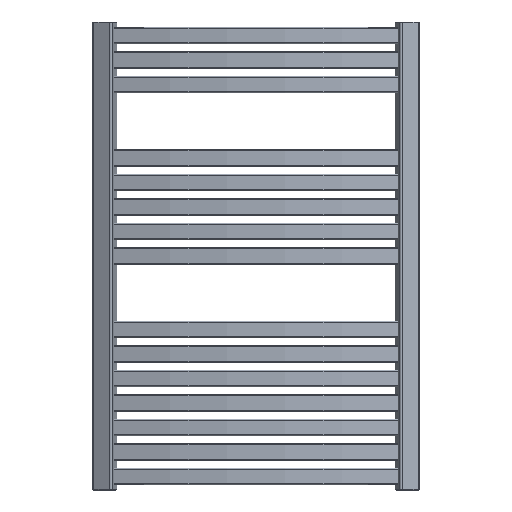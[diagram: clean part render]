
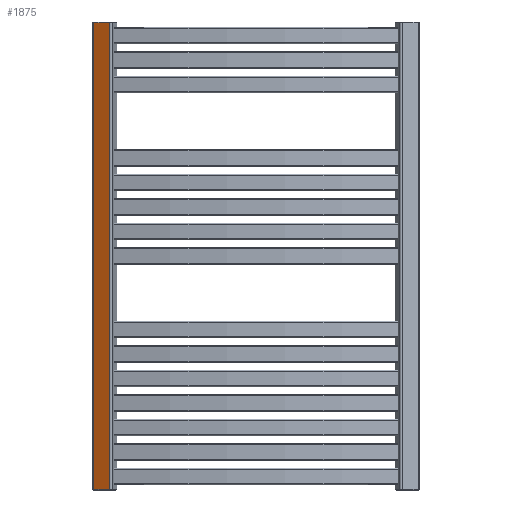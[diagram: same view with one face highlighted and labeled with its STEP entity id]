
A CAD part, front view. The second image highlights one B-rep face of the part: STEP entity #1875.
In plain terms, the highlighted planar face has unit normal (-0.515, -0.857, 0).
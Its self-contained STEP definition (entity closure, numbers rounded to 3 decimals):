
#249=CARTESIAN_POINT('',(-298.242,-5.701,1.5));
#250=VERTEX_POINT('',#249);
#298=CARTESIAN_POINT('',(-268.958,-23.297,1.5));
#299=VERTEX_POINT('',#298);
#307=CARTESIAN_POINT('',(-268.958,-23.297,1.5));
#308=DIRECTION('',(-0.857,0.515,0.0));
#309=VECTOR('',#308,34.164);
#310=LINE('',#307,#309);
#311=EDGE_CURVE('',#299,#250,#310,.T.);
#524=CARTESIAN_POINT('',(-298.242,-5.701,858.5));
#525=VERTEX_POINT('',#524);
#526=CARTESIAN_POINT('',(-298.242,-5.701,1.5));
#527=DIRECTION('',(0.0,0.0,1.0));
#528=VECTOR('',#527,857.0);
#529=LINE('',#526,#528);
#530=EDGE_CURVE('',#250,#525,#529,.T.);
#582=CARTESIAN_POINT('',(-268.958,-23.297,858.5));
#583=VERTEX_POINT('',#582);
#600=CARTESIAN_POINT('',(-298.242,-5.701,858.5));
#601=DIRECTION('',(0.857,-0.515,0.0));
#602=VECTOR('',#601,34.164);
#603=LINE('',#600,#602);
#604=EDGE_CURVE('',#525,#583,#603,.T.);
#1855=CARTESIAN_POINT('',(-268.958,-23.297,858.5));
#1856=DIRECTION('',(0.0,0.0,-1.0));
#1857=VECTOR('',#1856,857.0);
#1858=LINE('',#1855,#1857);
#1859=EDGE_CURVE('',#583,#299,#1858,.T.);
#1864=CARTESIAN_POINT('',(-265.048,-25.646,0.0));
#1865=DIRECTION('',(-0.515,-0.857,0.0));
#1866=DIRECTION('',(0.0,0.0,1.0));
#1867=AXIS2_PLACEMENT_3D('',#1864,#1865,#1866);
#1868=PLANE('',#1867);
#1869=ORIENTED_EDGE('',*,*,#311,.F.);
#1870=ORIENTED_EDGE('',*,*,#1859,.F.);
#1871=ORIENTED_EDGE('',*,*,#604,.F.);
#1872=ORIENTED_EDGE('',*,*,#530,.F.);
#1873=EDGE_LOOP('',(#1869,#1870,#1871,#1872));
#1874=FACE_OUTER_BOUND('',#1873,.T.);
#1875=ADVANCED_FACE('',(#1874),#1868,.T.);
